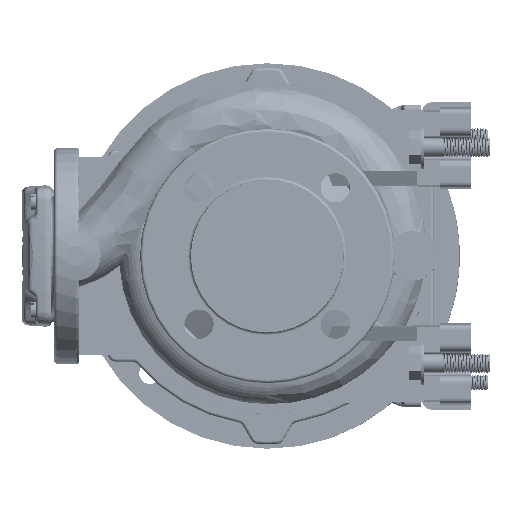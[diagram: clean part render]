
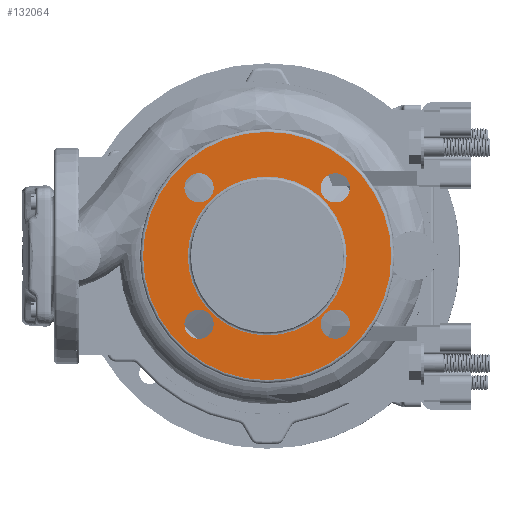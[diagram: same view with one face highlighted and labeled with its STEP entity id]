
A CAD part, left-side view. The second image highlights one B-rep face of the part: STEP entity #132064.
In plain terms, the highlighted planar face has unit normal (-1, 0, 0).
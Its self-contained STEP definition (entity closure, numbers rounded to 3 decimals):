
#3234 = DIRECTION ( 'NONE',  ( 0., -1., 0. ) ) ;
#3986 = VERTEX_POINT ( 'NONE', #162709 ) ;
#5790 = DIRECTION ( 'NONE',  ( 0., -1., 0. ) ) ;
#9261 = CARTESIAN_POINT ( 'NONE',  ( -121.425, 143.567, 270.466 ) ) ;
#9429 = VERTEX_POINT ( 'NONE', #109235 ) ;
#10360 = CARTESIAN_POINT ( 'NONE',  ( -121.425, 222.456, 270.466 ) ) ;
#12812 = DIRECTION ( 'NONE',  ( 0., -1., 0. ) ) ;
#14206 = DIRECTION ( 'NONE',  ( -1., 0., 0. ) ) ;
#16751 = CARTESIAN_POINT ( 'NONE',  ( -121.425, 222.456, 270.466 ) ) ;
#17898 = EDGE_LOOP ( 'NONE', ( #25354, #51763 ) ) ;
#18860 = EDGE_CURVE ( 'NONE', #20715, #153828, #113470, .T. ) ;
#20553 = AXIS2_PLACEMENT_3D ( 'NONE', #57738, #14206, #3234 ) ;
#20578 = EDGE_CURVE ( 'NONE', #62694, #117478, #76523, .T. ) ;
#20715 = VERTEX_POINT ( 'NONE', #150820 ) ;
#22191 = DIRECTION ( 'NONE',  ( 0., -1., 0. ) ) ;
#23546 = DIRECTION ( 'NONE',  ( -1., 0., 0. ) ) ;
#25021 = DIRECTION ( 'NONE',  ( 0., 0., 1. ) ) ;
#25354 = ORIENTED_EDGE ( 'NONE', *, *, #133214, .T. ) ;
#26248 = CARTESIAN_POINT ( 'NONE',  ( -121.425, 134.067, 270.466 ) ) ;
#28581 = EDGE_LOOP ( 'NONE', ( #89627, #32479 ) ) ;
#28835 = CIRCLE ( 'NONE', #43228, 9.5 ) ;
#30259 = ORIENTED_EDGE ( 'NONE', *, *, #171891, .F. ) ;
#32479 = ORIENTED_EDGE ( 'NONE', *, *, #93003, .F. ) ;
#32647 = PLANE ( 'NONE',  #80977 ) ;
#32939 = ORIENTED_EDGE ( 'NONE', *, *, #143703, .F. ) ;
#36386 = CIRCLE ( 'NONE', #120518, 9.5 ) ;
#40445 = VERTEX_POINT ( 'NONE', #92931 ) ;
#41851 = DIRECTION ( 'NONE',  ( -1., 0., 0. ) ) ;
#42761 = CARTESIAN_POINT ( 'NONE',  ( -121.425, 134.067, 270.466 ) ) ;
#43228 = AXIS2_PLACEMENT_3D ( 'NONE', #156736, #72345, #44209 ) ;
#44209 = DIRECTION ( 'NONE',  ( 0., 1., 0. ) ) ;
#47156 = CARTESIAN_POINT ( 'NONE',  ( -121.425, 258.761, 226.272 ) ) ;
#47516 = CARTESIAN_POINT ( 'NONE',  ( -121.425, 212.956, 182.078 ) ) ;
#48314 = AXIS2_PLACEMENT_3D ( 'NONE', #80015, #119097, #121787 ) ;
#49809 = CARTESIAN_POINT ( 'NONE',  ( -121.425, 229.761, 226.272 ) ) ;
#51763 = ORIENTED_EDGE ( 'NONE', *, *, #55192, .T. ) ;
#55052 = AXIS2_PLACEMENT_3D ( 'NONE', #137184, #65486, #12812 ) ;
#55192 = EDGE_CURVE ( 'NONE', #139318, #3986, #141060, .T. ) ;
#57738 = CARTESIAN_POINT ( 'NONE',  ( -121.425, 178.261, 226.272 ) ) ;
#61649 = DIRECTION ( 'NONE',  ( 1., 0., 0. ) ) ;
#62536 = FACE_BOUND ( 'NONE', #165593, .T. ) ;
#62694 = VERTEX_POINT ( 'NONE', #83049 ) ;
#63434 = FACE_BOUND ( 'NONE', #120897, .T. ) ;
#65486 = DIRECTION ( 'NONE',  ( -1., 0., 0. ) ) ;
#66357 = CIRCLE ( 'NONE', #176522, 9.5 ) ;
#71791 = CIRCLE ( 'NONE', #94972, 9.5 ) ;
#72114 = DIRECTION ( 'NONE',  ( -1., 0., 0. ) ) ;
#72345 = DIRECTION ( 'NONE',  ( -1., 0., 0. ) ) ;
#72605 = VERTEX_POINT ( 'NONE', #145668 ) ;
#72926 = DIRECTION ( 'NONE',  ( 0., 1., 0. ) ) ;
#73892 = CARTESIAN_POINT ( 'NONE',  ( -121.425, 178.261, 226.272 ) ) ;
#74397 = FACE_BOUND ( 'NONE', #28581, .T. ) ;
#75289 = FACE_BOUND ( 'NONE', #158374, .T. ) ;
#76523 = CIRCLE ( 'NONE', #105549, 51.5 ) ;
#78463 = CIRCLE ( 'NONE', #20553, 51.5 ) ;
#79692 = VERTEX_POINT ( 'NONE', #117571 ) ;
#80001 = CARTESIAN_POINT ( 'NONE',  ( -121.425, 178.261, 226.272 ) ) ;
#80015 = CARTESIAN_POINT ( 'NONE',  ( -121.425, 222.456, 182.078 ) ) ;
#80765 = ORIENTED_EDGE ( 'NONE', *, *, #134491, .F. ) ;
#80977 = AXIS2_PLACEMENT_3D ( 'NONE', #49809, #61649, #117054 ) ;
#81427 = CARTESIAN_POINT ( 'NONE',  ( -121.425, 126.761, 226.272 ) ) ;
#83049 = CARTESIAN_POINT ( 'NONE',  ( -121.425, 229.761, 226.272 ) ) ;
#84000 = ORIENTED_EDGE ( 'NONE', *, *, #123842, .F. ) ;
#84862 = DIRECTION ( 'NONE',  ( 0., -1., 0. ) ) ;
#85679 = DIRECTION ( 'NONE',  ( -1., 0., 0. ) ) ;
#87138 = ORIENTED_EDGE ( 'NONE', *, *, #20578, .F. ) ;
#89627 = ORIENTED_EDGE ( 'NONE', *, *, #144320, .F. ) ;
#89872 = CIRCLE ( 'NONE', #55052, 80.5 ) ;
#92931 = CARTESIAN_POINT ( 'NONE',  ( -121.425, 212.956, 270.466 ) ) ;
#92939 = ORIENTED_EDGE ( 'NONE', *, *, #140554, .F. ) ;
#93003 = EDGE_CURVE ( 'NONE', #72605, #156676, #28835, .T. ) ;
#94972 = AXIS2_PLACEMENT_3D ( 'NONE', #16751, #72114, #84862 ) ;
#98130 = DIRECTION ( 'NONE',  ( 0., 0., -1. ) ) ;
#101049 = CARTESIAN_POINT ( 'NONE',  ( -121.425, 134.067, 182.078 ) ) ;
#103893 = DIRECTION ( 'NONE',  ( -1., 0., 0. ) ) ;
#105549 = AXIS2_PLACEMENT_3D ( 'NONE', #80001, #162635, #175351 ) ;
#109235 = CARTESIAN_POINT ( 'NONE',  ( -121.425, 124.567, 270.466 ) ) ;
#109827 = EDGE_LOOP ( 'NONE', ( #80765, #87138 ) ) ;
#113470 = CIRCLE ( 'NONE', #136639, 9.5 ) ;
#117054 = DIRECTION ( 'NONE',  ( 0., 1., 0. ) ) ;
#117478 = VERTEX_POINT ( 'NONE', #81427 ) ;
#117571 = CARTESIAN_POINT ( 'NONE',  ( -121.425, 231.956, 270.466 ) ) ;
#118707 = AXIS2_PLACEMENT_3D ( 'NONE', #101049, #85679, #72926 ) ;
#119097 = DIRECTION ( 'NONE',  ( -1., 0., 0. ) ) ;
#119592 = VERTEX_POINT ( 'NONE', #9261 ) ;
#120518 = AXIS2_PLACEMENT_3D ( 'NONE', #42761, #41851, #98130 ) ;
#120897 = EDGE_LOOP ( 'NONE', ( #92939, #175303 ) ) ;
#121787 = DIRECTION ( 'NONE',  ( 0., 0., 1. ) ) ;
#123842 = EDGE_CURVE ( 'NONE', #119592, #9429, #36386, .T. ) ;
#129275 = DIRECTION ( 'NONE',  ( -1., 0., 0. ) ) ;
#132064 = ADVANCED_FACE ( 'NONE', ( #62536, #74397, #63434, #75289, #145195, #159700 ), #32647, .F. ) ;
#133214 = EDGE_CURVE ( 'NONE', #3986, #139318, #89872, .T. ) ;
#134491 = EDGE_CURVE ( 'NONE', #117478, #62694, #78463, .T. ) ;
#136639 = AXIS2_PLACEMENT_3D ( 'NONE', #178438, #149422, #25021 ) ;
#137184 = CARTESIAN_POINT ( 'NONE',  ( -121.425, 178.261, 226.272 ) ) ;
#139318 = VERTEX_POINT ( 'NONE', #47156 ) ;
#140554 = EDGE_CURVE ( 'NONE', #153828, #20715, #173008, .T. ) ;
#141060 = CIRCLE ( 'NONE', #164257, 80.5 ) ;
#142492 = EDGE_CURVE ( 'NONE', #40445, #79692, #158893, .T. ) ;
#143703 = EDGE_CURVE ( 'NONE', #9429, #119592, #66357, .T. ) ;
#144320 = EDGE_CURVE ( 'NONE', #156676, #72605, #165131, .T. ) ;
#145195 = FACE_BOUND ( 'NONE', #109827, .T. ) ;
#145668 = CARTESIAN_POINT ( 'NONE',  ( -121.425, 143.567, 182.078 ) ) ;
#149422 = DIRECTION ( 'NONE',  ( -1., 0., 0. ) ) ;
#149751 = DIRECTION ( 'NONE',  ( 0., 0., -1. ) ) ;
#150820 = CARTESIAN_POINT ( 'NONE',  ( -121.425, 231.956, 182.078 ) ) ;
#153828 = VERTEX_POINT ( 'NONE', #47516 ) ;
#156676 = VERTEX_POINT ( 'NONE', #178908 ) ;
#156736 = CARTESIAN_POINT ( 'NONE',  ( -121.425, 134.067, 182.078 ) ) ;
#158374 = EDGE_LOOP ( 'NONE', ( #169131, #30259 ) ) ;
#158893 = CIRCLE ( 'NONE', #170436, 9.5 ) ;
#159700 = FACE_OUTER_BOUND ( 'NONE', #17898, .T. ) ;
#162635 = DIRECTION ( 'NONE',  ( -1., 0., 0. ) ) ;
#162709 = CARTESIAN_POINT ( 'NONE',  ( -121.425, 97.761, 226.272 ) ) ;
#164257 = AXIS2_PLACEMENT_3D ( 'NONE', #73892, #129275, #5790 ) ;
#165131 = CIRCLE ( 'NONE', #118707, 9.5 ) ;
#165593 = EDGE_LOOP ( 'NONE', ( #32939, #84000 ) ) ;
#169131 = ORIENTED_EDGE ( 'NONE', *, *, #142492, .F. ) ;
#170436 = AXIS2_PLACEMENT_3D ( 'NONE', #10360, #103893, #22191 ) ;
#171891 = EDGE_CURVE ( 'NONE', #79692, #40445, #71791, .T. ) ;
#173008 = CIRCLE ( 'NONE', #48314, 9.5 ) ;
#175303 = ORIENTED_EDGE ( 'NONE', *, *, #18860, .F. ) ;
#175351 = DIRECTION ( 'NONE',  ( 0., -1., 0. ) ) ;
#176522 = AXIS2_PLACEMENT_3D ( 'NONE', #26248, #23546, #149751 ) ;
#178438 = CARTESIAN_POINT ( 'NONE',  ( -121.425, 222.456, 182.078 ) ) ;
#178908 = CARTESIAN_POINT ( 'NONE',  ( -121.425, 124.567, 182.078 ) ) ;
